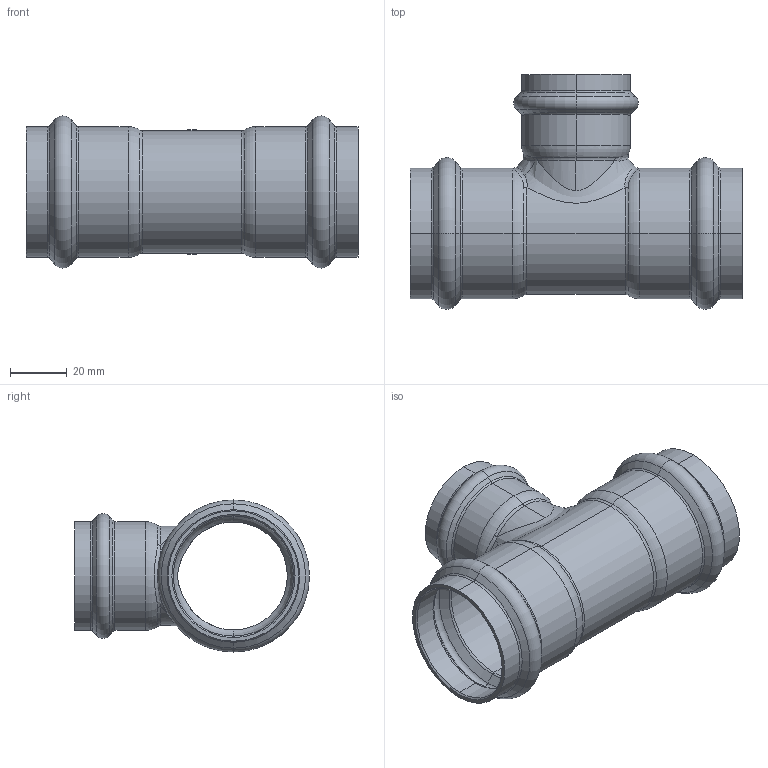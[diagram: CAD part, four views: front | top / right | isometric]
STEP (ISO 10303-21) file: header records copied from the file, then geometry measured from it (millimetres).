
FILE_DESCRIPTION (( 'STEP AP203' ), '1' );
FILE_NAME ('SP5130 Ø42-35-42.STEP', '2017-04-25T15:10:39', ( '' ), ( '' ), 'SwSTEP 2.0', 'SolidWorks 2016', '' );
FILE_SCHEMA (( 'CONFIG_CONTROL_DESIGN' ));
Length unit declared in the file: millimetre
Products named in the file (1): SP5130 Ø42-35-42
Bounding box: 117 x 82.8 x 53.6 mm (x, y, z)
Volume: 39344.8 mm3; surface area: 42313.5 mm2
Topology: 1 solids, 1 shells, 133 faces, 282 edges, 150 vertices
Faces by surface type: torus 57, cylinder 35, cone 30, bspline 8, plane 3
Entity records: 5420 total; most frequent: CARTESIAN_POINT 2449, DIRECTION 701, ORIENTED_EDGE 564, AXIS2_PLACEMENT_3D 320, EDGE_CURVE 282, CIRCLE 194, VERTEX_POINT 150, EDGE_LOOP 136
